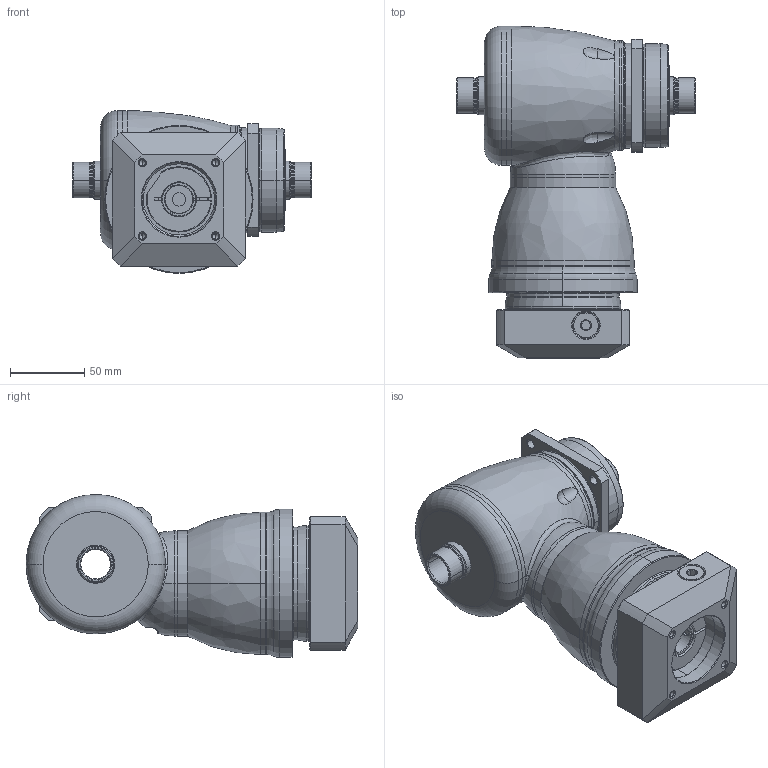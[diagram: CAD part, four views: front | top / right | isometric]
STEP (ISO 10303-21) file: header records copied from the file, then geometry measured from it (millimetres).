
FILE_DESCRIPTION((''),'2;1');
FILE_NAME('KF075_S4_1ST_19-P0409400101_ASM','2016-07-15T',('d01943'),(''),'PRO/ENGINEER BY PARAMETRIC TECHNOLOGY CORPORATION, 2008410','PRO/ENGINEER BY PARAMETRIC TECHNOLOGY CORPORATION, 2008410','');
FILE_SCHEMA(('CONFIG_CONTROL_DESIGN'));
Length unit declared in the file: millimetre
Products named in the file (11): P1008300002; P1804300001; P0914300001; P1315300001; P1007300001; P1318300201; P0409400101; P0503400006; P0912302001; 21711412017; KF075_S4_1ST_19-P0409400101_ASM
Assembly tree (10 placements, depth 2):
  KF075_S4_1ST_19-P0409400101_ASM
    P1008300002
    P1804300001
    P0914300001
    P1315300001
    P1007300001
    P1318300201
    P0409400101
    P0503400006
    P0912302001
    21711412017
Bounding box: 161 x 224 x 110 mm (x, y, z)
Volume: 1273075.6 mm3; surface area: 228550.7 mm2
Topology: 11 solids, 11 shells, 514 faces, 1175 edges, 697 vertices
Faces by surface type: cylinder 171, cone 122, plane 90, torus 80, bspline 49, sphere 2
Entity records: 21977 total; most frequent: CARTESIAN_POINT 10350, DIRECTION 2536, ORIENTED_EDGE 2290, EDGE_CURVE 1145, AXIS2_PLACEMENT_3D 1087, VERTEX_POINT 691, CIRCLE 601, EDGE_LOOP 582
